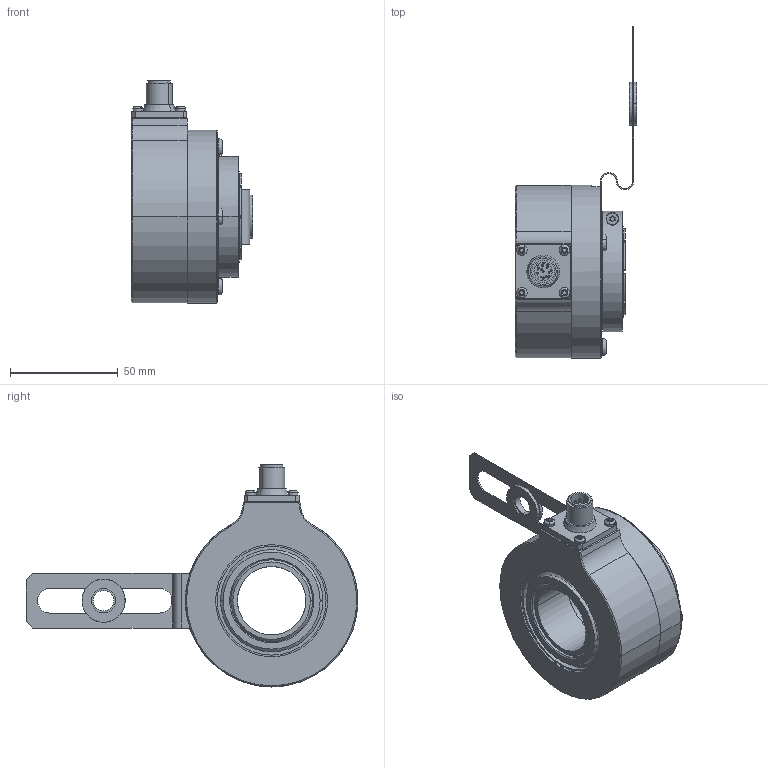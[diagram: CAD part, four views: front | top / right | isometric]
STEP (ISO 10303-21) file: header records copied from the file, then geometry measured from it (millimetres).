
FILE_DESCRIPTION (( 'STEP AP203' ), '1' );
FILE_NAME ('K80I.OXX.XXXXX.XH2D89A.6XRC2.step', '2025-12-09T13:42:48', ( '' ), ( '' ), 'SwSTEP 2.0', 'SolidWorks 2021', '' );
FILE_SCHEMA (( 'CONFIG_CONTROL_DESIGN' ));
Length unit declared in the file: millimetre
Products named in the file (1): K80I.OXX.XXXXX.XH2D89A.6XRC2
Bounding box: 56.5 x 154.07 x 103.08 mm (x, y, z)
Volume: 192973.9 mm3; surface area: 78227.1 mm2
Topology: 8 solids, 8 shells, 710 faces, 1878 edges, 1209 vertices
Faces by surface type: cylinder 316, plane 252, bspline 76, cone 40, sphere 16, torus 10
Entity records: 27239 total; most frequent: CARTESIAN_POINT 9734, ORIENTED_EDGE 3676, DIRECTION 3608, EDGE_CURVE 1838, AXIS2_PLACEMENT_3D 1361, VERTEX_POINT 1193, LINE 886, VECTOR 886
